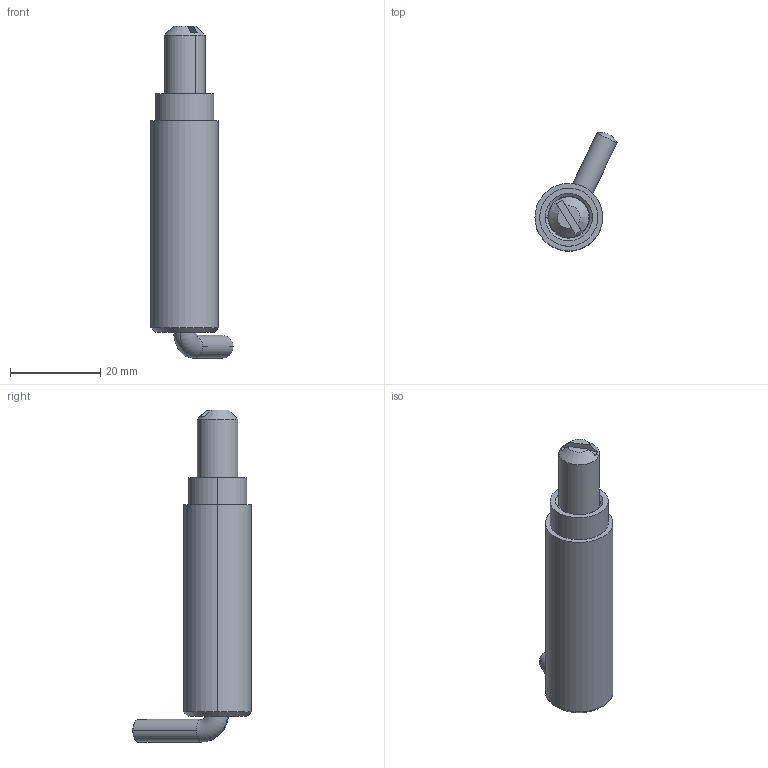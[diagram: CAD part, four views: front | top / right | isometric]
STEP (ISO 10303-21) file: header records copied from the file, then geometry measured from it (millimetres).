
FILE_DESCRIPTION (( 'STEP AP214' ), '1' );
FILE_NAME ('3.ST25.001.STEP', '2010-03-02T19:23:48', ( 'Techniczny' ), ( 'RST Roztocze' ), 'SwSTEP 2.0', 'SolidWorks 2010', '' );
FILE_SCHEMA (( 'AUTOMOTIVE_DESIGN' ));
Length unit declared in the file: millimetre
Products named in the file (5): 3B.St25.04.00.00; 3B.St25.02.00.00; 3.ST25.001; 3B.St25.03.00.00; 3B.St25.01.00.00
Assembly tree (4 placements, depth 2):
  3.ST25.001
    3B.St25.04.00.00
    3B.St25.03.00.00
    3B.St25.01.00.00
    3B.St25.02.00.00
Bounding box: 18.22 x 26.36 x 73.68 mm (x, y, z)
Volume: 9082.7 mm3; surface area: 7063.9 mm2
Topology: 4 solids, 4 shells, 55 faces, 126 edges, 76 vertices
Faces by surface type: cylinder 16, cone 14, plane 13, torus 10, bspline 2
Entity records: 2812 total; most frequent: CARTESIAN_POINT 1312, DIRECTION 308, ORIENTED_EDGE 244, AXIS2_PLACEMENT_3D 137, EDGE_CURVE 122, CIRCLE 77, VERTEX_POINT 76, EDGE_LOOP 60
